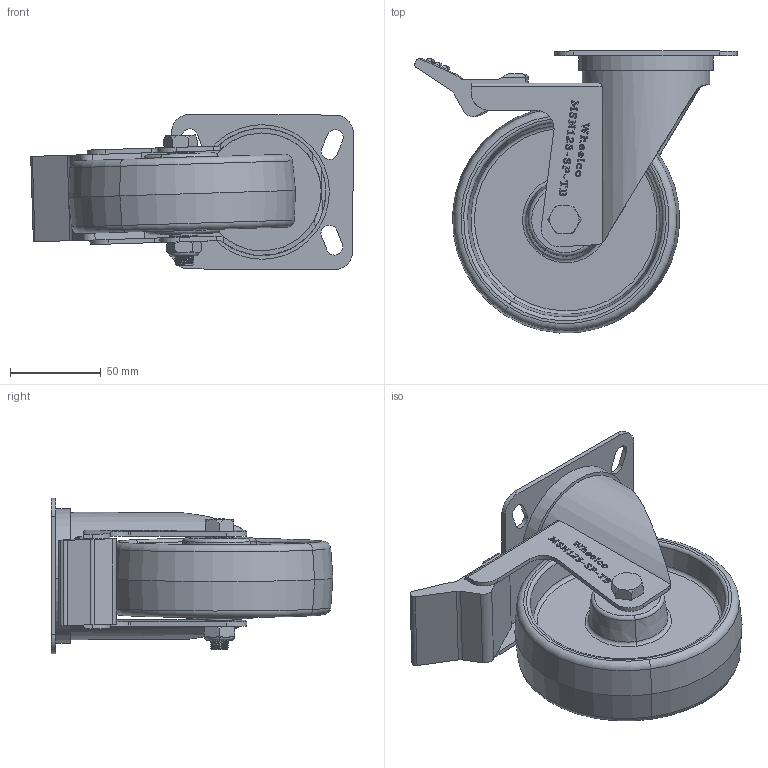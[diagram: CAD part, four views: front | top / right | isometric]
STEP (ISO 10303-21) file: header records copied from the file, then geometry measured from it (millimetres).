
FILE_DESCRIPTION (( 'STEP AP214' ), '1' );
FILE_NAME ('MSN125-SP-TB.step', '2024-01-21T22:20:26', ( '' ), ( '' ), 'SwSTEP 2.0', 'SolidWorks 2022', '' );
FILE_SCHEMA (( 'AUTOMOTIVE_DESIGN' ));
Length unit declared in the file: millimetre
Products named in the file (7): MSN125; M10X65 STAINLESS BOLT; M10 Nyloc SS; SP15-10-47; MSN125-SP-TB; 100X85 ANGLED
Assembly tree (6 placements, depth 2):
  MSN125-SP-TB
    MSN125-SP-TB
    100X85 ANGLED
    M10X65 STAINLESS BOLT
    M10 Nyloc SS
    SP15-10-47
    MSN125
Bounding box: 177.38 x 155 x 85.39 mm (x, y, z)
Volume: 377362.5 mm3; surface area: 126838.8 mm2
Topology: 6 solids, 6 shells, 665 faces, 1796 edges, 1180 vertices
Faces by surface type: plane 325, cylinder 154, bspline 127, cone 33, torus 26
Entity records: 34393 total; most frequent: CARTESIAN_POINT 16876, ORIENTED_EDGE 3592, DIRECTION 2649, EDGE_CURVE 1796, VERTEX_POINT 1180, VECTOR 1099, LINE 1099, AXIS2_PLACEMENT_3D 775
